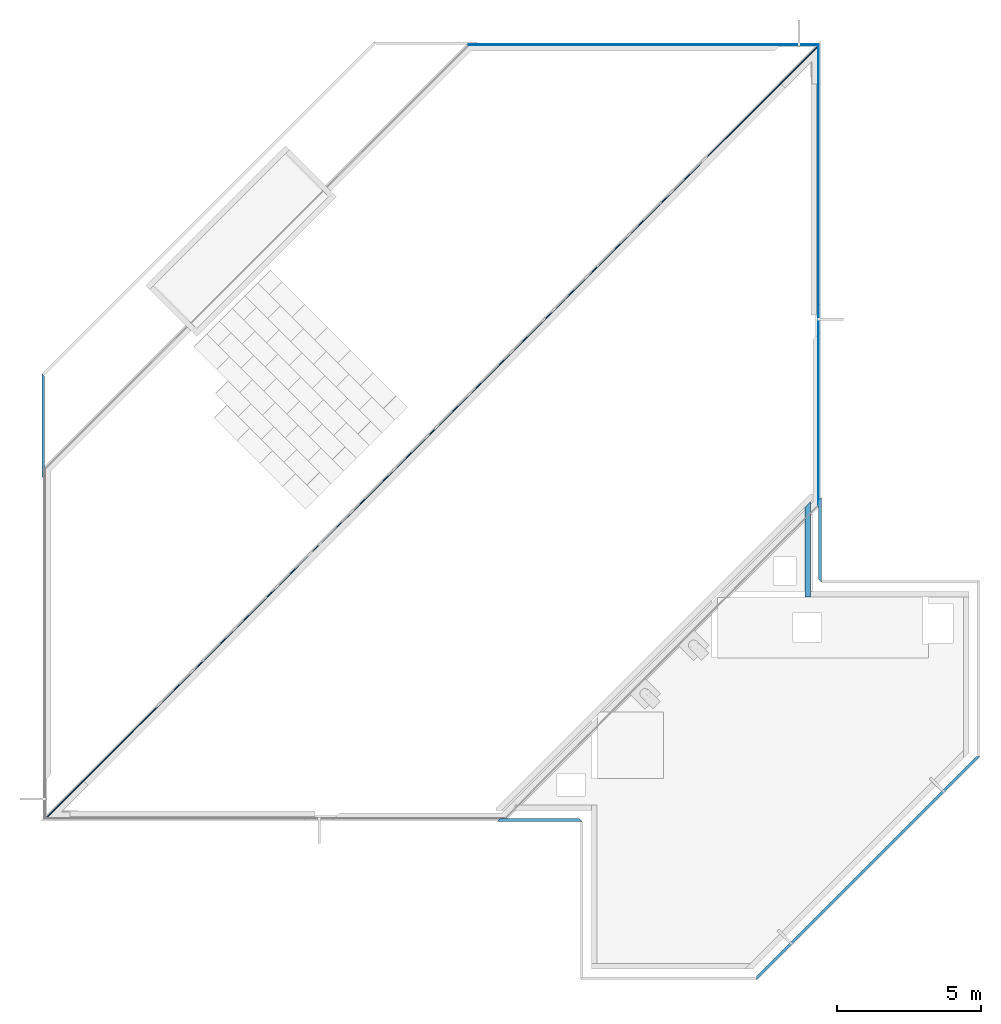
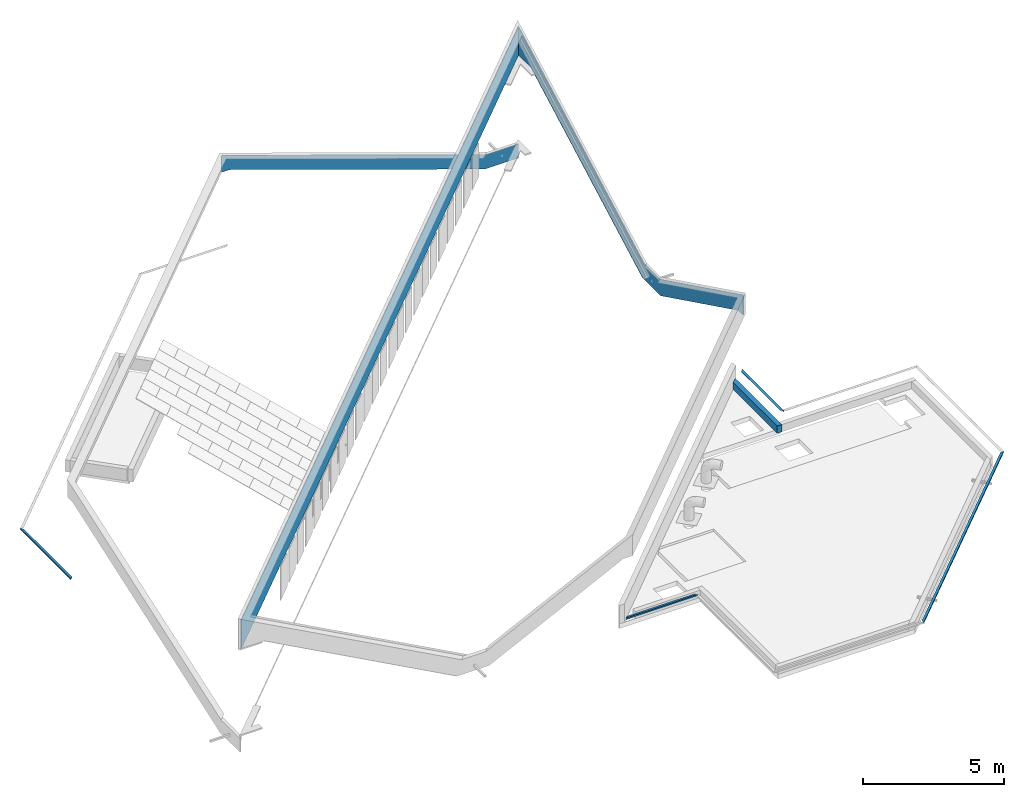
# One storey, part 5 of 8: 4 discrete accessories, 3 plates, 1 wall.
"""IFC4X3_ADD2 building model written with IfcOpenShell, lengths in millimetres."""

from ifc_helpers import new_model, si_unit, direction, frame, origin_with_axes, place, context, subcontext, project, spatial, polygons, source, transform, mapped, material, element, save


model = new_model("IFC4X3_ADD2")

# Units and contexts
model_context = context("Model", 3, precision=1e-05, world=origin_with_axes(), true_north=direction((0.0, 1.0)))
body_context = subcontext(model_context, "Body", "Model", "MODEL_VIEW")
ifc_project = project(units=[si_unit("LENGTHUNIT", "METRE", prefix="MILLI"), si_unit("AREAUNIT", "SQUARE_METRE"), si_unit("VOLUMEUNIT", "CUBIC_METRE"), si_unit("PLANEANGLEUNIT", "RADIAN"), si_unit("TIMEUNIT", "SECOND"), si_unit("MASSUNIT", "GRAM")], contexts=[model_context])

# Site, building, storey
site_placement = place(None, origin_with_axes())
site = spatial("IfcSite", under=ifc_project, at=site_placement, Name="Site", CompositionType="ELEMENT")
building_placement = place(site_placement, origin_with_axes())
building = spatial("IfcBuilding", under=site, at=building_placement, Name="IFC Building Story")
storey_placement = place(building_placement, frame((0.0, 0.0, 17050.0), z_axis=(0.0, 0.0, 1.0), x_axis=(1.0, 0.0, 0.0)))
storey = spatial("IfcBuildingStorey", under=building, at=storey_placement, Name="050", Elevation=17050.0)

# Plates
shared_shape_1 = source(origin_with_axes(), body_context, "Body", "Tessellation", [
    polygons([(10100.410772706, -14.000000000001, -2.16573425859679e-12), (10100.410772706, -12.0000000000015, 2.16573425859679e-12), (15587.0125281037, -12.0000000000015, 2695.0), (15587.0125281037, -14.0000000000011, 2695.0), (8782.81279845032, -14.0, -2.16573425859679e-12), (8782.81279845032, -12.0000000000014, -4.33146851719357e-12), (3825.34570056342, -14.0, 2695.0), (2280.1611505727, -14.0, 3535.0), (900.53208808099, -14.0, 4285.0), (900.53208808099, -12.0, 4285.0), (2280.1611505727, -12.0, 3535.0), (3825.34570056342, -12.0, 2695.0), (8950.89279170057, -14.0, 661.999999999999), (8950.89279170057, -12.0000000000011, 661.999999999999), (5208.60955123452, -12.0, 2695.0), (3662.36364764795, -12.0, 3535.0), (2281.78694801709, -12.0, 4285.0), (26.0000000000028, -11.9999999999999, 5510.45905016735), (28.0000000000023, -13.9999999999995, 5509.37254769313), (2281.7869480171, -14.0, 4285.0), (3662.36364764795, -14.0, 3535.0), (5208.60955123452, -14.0, 2695.0), (10011.2699455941, -14.0000000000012, 661.999999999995), (10011.2699455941, -12.0000000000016, 661.999999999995), (14150.1424375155, -14.0000000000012, 2695.0), (15860.2520751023, -14.0, 3535.0), (15928.943250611, -14.0, 3568.74087026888), (15926.943250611, -12.000000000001, 3567.75847711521), (15860.2520751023, -12.0000000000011, 3535.0), (14150.1424375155, -12.0000000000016, 2695.0), (26.0000000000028, -11.9999999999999, 4285.0), (15926.943250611, -12.000000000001, 3535.0), (15926.943250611, -12.000000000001, 2695.0), (15928.943250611, -14.0, 2695.0), (15928.943250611, -14.0, 3535.0), (27.9999999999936, -13.9999999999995, 4285.0)], [[[1, 2, 3, 4]], [[1, 5, 6, 2]], [[8, 9, 10]], [[8, 10, 11]], [[11, 12, 7]], [[11, 7, 8]], [[12, 6, 5]], [[12, 5, 7]], [[17, 18, 19]], [[17, 19, 20]], [[20, 21, 16]], [[20, 16, 17]], [[21, 22, 15]], [[21, 15, 16]], [[22, 13, 14]], [[22, 14, 15]], [[23, 24, 14, 13]], [[26, 27, 28]], [[26, 28, 29]], [[29, 30, 25]], [[29, 25, 26]], [[30, 24, 23]], [[30, 23, 25]], [[10, 31, 18]], [[18, 17, 10]], [[17, 11, 10]], [[17, 16, 12]], [[17, 12, 11]], [[29, 28, 32]], [[3, 30, 29]], [[29, 32, 33]], [[29, 33, 3]], [[3, 2, 24]], [[3, 24, 30]], [[2, 6, 14]], [[2, 14, 24]], [[6, 12, 15]], [[6, 15, 14]], [[12, 16, 15]], [[4, 34, 35]], [[9, 8, 20]], [[9, 20, 19]], [[19, 36, 9]], [[8, 7, 21]], [[8, 21, 20]], [[7, 22, 21]], [[7, 5, 13]], [[7, 13, 22]], [[5, 1, 23]], [[5, 23, 13]], [[1, 4, 25]], [[1, 25, 23]], [[4, 35, 26]], [[4, 26, 25]], [[35, 27, 26]], [[33, 34, 4, 3]], [[9, 36, 31, 10]], [[32, 28, 27]], [[32, 27, 35]], [[35, 34, 33]], [[35, 33, 32]], [[31, 36, 19, 18]]]),
    polygons([(10100.410772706, 11.9999999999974, -2.16573425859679e-12), (10100.410772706, 13.9999999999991, 2.16573425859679e-12), (15587.0125281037, 13.999999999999, 2695.0), (15587.0125281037, 11.9999999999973, 2695.0), (8782.81279845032, 13.9999999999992, -2.16573425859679e-12), (8782.81279845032, 11.9999999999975, -4.33146851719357e-12), (3825.34570056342, 11.9999999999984, 2695.0), (2280.1611505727, 11.9999999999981, 3535.0), (900.53208808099, 11.9999999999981, 4285.0), (900.53208808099, 13.9999999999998, 4285.0), (2280.1611505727, 13.9999999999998, 3535.0), (3825.34570056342, 14.0, 2695.0), (8950.89279170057, 11.9999999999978, 662.000000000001), (8950.89279170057, 13.9999999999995, 661.999999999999), (5208.60955123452, 14.0, 2695.0), (3662.36364764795, 13.9999999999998, 3535.0), (2281.78694801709, 13.9999999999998, 4285.0), (-36.7695526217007, 14.0, 5544.55868728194), (-34.7695526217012, 11.9999999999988, 5543.47218480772), (2281.78694801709, 11.9999999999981, 4285.0), (3662.36364764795, 11.9999999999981, 3535.0), (5208.60955123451, 11.9999999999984, 2695.0), (10011.2699455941, 11.9999999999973, 661.999999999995), (10011.2699455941, 13.999999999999, 661.999999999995), (14150.1424375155, 13.999999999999, 2695.0), (14150.1424375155, 11.9999999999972, 2695.0), (15860.2520751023, 11.9999999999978, 3535.0), (15902.943250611, 11.9999999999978, 3555.9697592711), (15900.943250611, 13.9999999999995, 3554.98736611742), (15860.2520751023, 13.9999999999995, 3535.0), (-36.7695526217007, 14.0, 4285.0), (15900.943250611, 13.9999999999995, 3535.0), (15937.7128032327, 13.9999999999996, 3535.0), (15937.7128032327, 13.9999999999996, 2695.0), (15939.7128032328, 11.9999999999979, 2695.0), (15939.7128032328, 11.9999999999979, 3535.0), (15902.943250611, 11.9999999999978, 3535.0), (-34.7695526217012, 11.9999999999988, 4285.0)], [[[1, 2, 3, 4]], [[5, 2, 1, 6]], [[8, 9, 10]], [[8, 10, 11]], [[11, 12, 7]], [[11, 7, 8]], [[12, 5, 6]], [[12, 6, 7]], [[17, 18, 19]], [[17, 19, 20]], [[20, 21, 16]], [[20, 16, 17]], [[21, 22, 15]], [[21, 15, 16]], [[22, 13, 14]], [[22, 14, 15]], [[23, 24, 14, 13]], [[25, 24, 23]], [[25, 23, 26]], [[27, 28, 29]], [[27, 29, 30]], [[30, 25, 26]], [[30, 26, 27]], [[10, 31, 18]], [[18, 17, 10]], [[17, 11, 10]], [[17, 16, 12]], [[17, 12, 11]], [[32, 33, 34]], [[34, 30, 32]], [[30, 29, 32]], [[3, 25, 30]], [[30, 34, 3]], [[3, 2, 24]], [[3, 24, 25]], [[2, 5, 14]], [[2, 14, 24]], [[5, 12, 15]], [[5, 15, 14]], [[12, 16, 15]], [[4, 35, 36]], [[9, 8, 20]], [[9, 20, 19]], [[19, 38, 9]], [[8, 7, 21]], [[8, 21, 20]], [[7, 22, 21]], [[7, 6, 13]], [[7, 13, 22]], [[6, 1, 23]], [[6, 23, 13]], [[1, 26, 23]], [[1, 37, 26]], [[37, 27, 26]], [[37, 28, 27]], [[1, 4, 36]], [[1, 36, 37]], [[36, 33, 32, 37]], [[34, 35, 4, 3]], [[32, 29, 28, 37]], [[31, 10, 9, 38]], [[33, 36, 35, 34]], [[31, 38, 19, 18]]]),
    polygons([(15587.0125281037, 11.9999999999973, 2695.0), (10100.410772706, 11.9999999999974, 2.16573425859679e-12), (8782.81279845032, 11.9999999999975, -4.33146851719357e-12), (3825.34570056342, 11.9999999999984, 2695.0), (2280.1611505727, 11.9999999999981, 3535.0), (900.53208808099, 11.9999999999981, 4285.0), (-0.828427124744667, 11.9999999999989, 4285.0), (-0.828427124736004, 11.9999999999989, 5525.03362639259), (2281.78694801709, 11.9999999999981, 4285.0), (3662.36364764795, 11.9999999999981, 3535.0), (5208.60955123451, 11.9999999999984, 2695.0), (8950.89279170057, 11.9999999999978, 662.000000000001), (10011.2699455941, 11.9999999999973, 661.999999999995), (14150.1424375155, 11.9999999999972, 2695.0), (15860.2520751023, 11.9999999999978, 3535.0), (15902.943250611, 11.9999999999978, 3555.9697592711), (15902.943250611, 11.9999999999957, 3535.0), (15905.7716777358, 11.9999999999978, 3535.0), (15905.7716777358, 11.9999999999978, 2695.0), (15587.0125281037, -12.0000000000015, 2695.0), (10100.410772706, -12.0000000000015, -2.16573425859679e-12), (8782.81279845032, -12.0000000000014, -4.33146851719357e-12), (3825.34570056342, -12.0, 2695.0), (2280.1611505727, -12.0, 3535.0), (900.53208808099, -12.0, 4285.0), (23.1715728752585, -12.0, 5511.99559670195), (2281.78694801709, -12.0, 4285.0), (3662.36364764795, -12.0, 3535.0), (5208.60955123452, -12.0, 2695.0), (8950.89279170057, -12.0000000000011, 661.999999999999), (10011.2699455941, -12.0000000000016, 661.999999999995), (14150.1424375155, -12.0000000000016, 2695.0), (15860.2520751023, -12.0000000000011, 3535.0), (15926.943250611, -12.000000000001, 3567.75847711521), (23.1715728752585, -12.0, 4285.0), (15929.7716777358, -12.000000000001, 2695.0), (15929.7716777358, -12.000000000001, 3535.0), (15926.943250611, -12.000000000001, 3535.0)], [[[6, 7, 8]], [[8, 9, 6]], [[9, 5, 6]], [[9, 10, 4]], [[9, 4, 5]], [[17, 18, 1]], [[1, 15, 16]], [[1, 16, 17]], [[1, 14, 15]], [[1, 2, 13]], [[1, 13, 14]], [[2, 3, 12]], [[2, 12, 13]], [[3, 4, 11]], [[3, 11, 12]], [[4, 10, 11]], [[18, 19, 1]], [[2, 1, 20, 21]], [[3, 2, 21, 22]], [[4, 3, 22]], [[4, 22, 23]], [[24, 25, 6]], [[24, 6, 5]], [[5, 4, 23]], [[5, 23, 24]], [[9, 8, 26]], [[9, 26, 27]], [[27, 28, 10]], [[27, 10, 9]], [[28, 29, 11]], [[28, 11, 10]], [[29, 30, 12]], [[29, 12, 11]], [[13, 12, 30, 31]], [[14, 13, 31]], [[14, 31, 32]], [[33, 34, 16]], [[33, 16, 15]], [[15, 14, 32]], [[15, 32, 33]], [[25, 24, 27]], [[25, 27, 26]], [[26, 35, 25]], [[24, 23, 28]], [[24, 28, 27]], [[23, 29, 28]], [[23, 22, 30]], [[23, 30, 29]], [[22, 21, 31]], [[22, 31, 30]], [[21, 20, 32]], [[21, 32, 31]], [[38, 34, 33]], [[33, 20, 36]], [[33, 36, 38]], [[36, 37, 38]], [[33, 32, 20]], [[37, 18, 17, 38]], [[1, 19, 36, 20]], [[18, 37, 36, 19]], [[17, 16, 34, 38]], [[7, 6, 25, 35]], [[7, 35, 26, 8]]]),
])
plate_1_placement = place(storey_placement, frame((-12225.0126193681, 39042.9781789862, 258.0), z_axis=(0.0, 0.0, 1.0), x_axis=(0.0, -1.0, 0.0)))
element("IfcPlate", 1, at=plate_1_placement, inside=storey, Name="Basic Wall:BB_07.04.63#01_Aluminium sandwichpanelen, 28 mm", ObjectType="Basic Wall:BB_07.04.63#01_Aluminium sandwichpanelen, 28 mm", PredefinedType="USERDEFINED", context=body_context, shape_type="MappedRepresentation", body=[
    mapped(shared_shape_1, transform((0.0, 0.0, 0.0))),
])
shared_shape_2 = source(origin_with_axes(), body_context, "Body", "Tessellation", [
    polygons([(67.5979797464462, -13.999999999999, 0.0), (64.7695526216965, -13.999999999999, 0.0), (62.7695526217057, -12.0000000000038, 0.0), (37939.377893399, -11.9999999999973, 0.0), (37937.377893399, -13.9999999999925, 0.0), (37934.5494662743, -13.9999999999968, 0.0), (62.7695526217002, -12.0000000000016, 1224.29045568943), (26.0000000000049, -12.0000000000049, 1224.29045568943), (26.0000000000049, -12.0000000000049, 1250.0), (37976.1474460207, -11.9999999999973, 1250.00000000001), (37976.1474460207, -11.9999999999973, 1224.29045568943), (37939.377893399, -11.9999999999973, 1224.29045568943), (37937.377893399, -13.9999999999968, 1224.29045568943), (37974.1474460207, -13.9999999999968, 1224.29045568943), (37974.1474460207, -13.9999999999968, 1239.58358233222), (37974.1474460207, -13.9999999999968, 1250.0), (27.9999999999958, -13.9999999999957, 1250.0), (27.9999999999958, -13.9999999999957, 1239.59043936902), (27.9999999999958, -13.9999999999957, 1224.29045568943), (64.7695526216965, -13.999999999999, 1224.29045568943)], [[[1, 2, 3]], [[6, 1, 3]], [[6, 3, 4]], [[4, 5, 6]], [[7, 8, 9]], [[7, 9, 12]], [[12, 4, 3]], [[12, 3, 7]], [[9, 10, 12]], [[10, 11, 12]], [[6, 5, 13]], [[15, 16, 13]], [[13, 14, 15]], [[20, 1, 6]], [[20, 6, 13]], [[13, 18, 20]], [[18, 19, 20]], [[13, 16, 17]], [[13, 17, 18]], [[20, 2, 1]], [[13, 5, 4, 12]], [[7, 3, 2, 20]], [[19, 8, 7, 20]], [[18, 17, 9]], [[9, 8, 19]], [[9, 19, 18]], [[17, 16, 10, 9]], [[15, 14, 11]], [[15, 11, 10]], [[10, 16, 15]], [[11, 14, 13, 12]]]),
    polygons([(4.33146851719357e-12, 14.0, 0.0), (38002.1474460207, 14.0000000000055, 0.0), (38000.1474460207, 12.0000000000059, 0.0), (1.99999999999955, 12.0000000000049, 0.0), (1.99999999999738, 12.0000000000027, 1224.28588433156), (1.99999999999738, 12.0000000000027, 1250.0), (-2.16573425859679e-12, 14.0000000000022, 1250.0), (-2.16573425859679e-12, 14.0000000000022, 1224.28588433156), (38002.1474460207, 14.0000000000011, 1224.28588433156), (38002.1474460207, 14.0000000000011, 1250.0), (38000.1474460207, 12.0000000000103, 1250.0), (38000.1474460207, 12.0000000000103, 1224.28588433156)], [[[1, 2, 3, 4]], [[5, 6, 7]], [[5, 7, 8]], [[8, 1, 4]], [[8, 4, 5]], [[9, 10, 11]], [[9, 11, 12]], [[12, 3, 2]], [[12, 2, 9]], [[8, 7, 10]], [[8, 10, 9]], [[9, 2, 1]], [[9, 1, 8]], [[12, 11, 6]], [[12, 6, 5]], [[5, 4, 3]], [[5, 3, 12]], [[10, 7, 6, 11]]]),
    polygons([(37997.319018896, 12.0000000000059, 0.0), (4.82842712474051, 12.0000000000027, 0.0), (4.82842712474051, 12.0000000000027, 1224.29045568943), (1.99999999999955, 12.0000000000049, 1224.29045568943), (1.99999999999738, 12.0000000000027, 1250.0), (38000.1474460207, 12.0000000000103, 1250.0), (38000.1474460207, 12.0000000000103, 1224.29045568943), (37997.319018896, 12.0000000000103, 1224.29045568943), (37973.3190188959, -11.9999999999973, 0.0), (28.8284271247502, -12.0000000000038, 0.0), (37973.3190188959, -11.9999999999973, 1224.29045568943), (37976.1474460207, -11.9999999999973, 1224.29045568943), (37976.1474460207, -11.9999999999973, 1250.00000000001), (26.0000000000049, -12.0000000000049, 1250.0), (26.0000000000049, -12.0000000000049, 1224.29045568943), (28.8284271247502, -12.0000000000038, 1224.29045568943)], [[[3, 4, 5]], [[3, 5, 8]], [[8, 1, 2]], [[8, 2, 3]], [[5, 6, 8]], [[6, 7, 8]], [[2, 1, 9, 10]], [[11, 12, 13]], [[11, 13, 16]], [[16, 10, 9]], [[16, 9, 11]], [[13, 14, 16]], [[14, 15, 16]], [[9, 1, 8, 11]], [[2, 10, 16, 3]], [[15, 4, 3, 16]], [[4, 15, 14, 5]], [[6, 5, 14, 13]], [[12, 7, 6, 13]], [[7, 12, 11, 8]]]),
])
plate_2_placement = place(storey_placement, frame((-39072.6892831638, 12201.1005050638, 4543.0), z_axis=(0.0, 0.0, 1.0), x_axis=(0.7071067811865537, 0.7071067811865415, 0.0)))
element("IfcPlate", 2, at=plate_2_placement, inside=storey, Name="Basic Wall:BB_07.04.63#01_Aluminium sandwichpanelen, 28 mm", ObjectType="Basic Wall:BB_07.04.63#01_Aluminium sandwichpanelen, 28 mm", PredefinedType="USERDEFINED", context=body_context, shape_type="MappedRepresentation", body=[
    mapped(shared_shape_2, transform((0.0, 0.0, 0.0))),
])
shared_shape_3 = source(origin_with_axes(), body_context, "Body", "Tessellation", [
    polygons([(0.0, 14.0000000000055, -2.16573425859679e-12), (1377.47711262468, 14.0000000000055, -2.16573425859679e-12), (1377.47711262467, 11.9999999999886, 2.16573425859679e-12), (0.0, 11.9999999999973, -2.16573425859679e-12), (0.0, 11.9999999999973, 607.911323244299), (0.0, 14.0000000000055, 607.911323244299), (1333.47530425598, 11.9999999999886, 607.911323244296), (1333.47530425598, 14.0000000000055, 607.911323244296), (10029.0500586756, 14.0000000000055, 3630.0), (10029.0500586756, 11.9999999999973, 3630.0), (12043.1876235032, 11.9999999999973, 4330.0), (12138.2428678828, 11.9999999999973, 4363.03581256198), (12140.2428678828, 14.0000000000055, 4363.73089914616), (12043.1876235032, 14.0000000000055, 4330.0), (11822.2190559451, 13.9999999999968, 3630.0), (11822.2190559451, 11.9999999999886, 3630.0), (12138.2428678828, 11.9999999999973, 3630.0), (12138.2428678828, 11.9999999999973, 4330.0), (12140.2428678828, 14.0000000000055, 4330.0), (12140.2428678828, 14.0000000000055, 3630.0)], [[[1, 2, 3, 4]], [[1, 4, 5, 6]], [[6, 5, 7, 8]], [[9, 8, 7]], [[9, 7, 10]], [[11, 12, 13]], [[11, 13, 14]], [[14, 9, 10]], [[14, 10, 11]], [[3, 2, 15, 16]], [[16, 17, 18]], [[7, 5, 4]], [[7, 4, 3]], [[3, 16, 10]], [[3, 10, 7]], [[16, 18, 11]], [[16, 11, 10]], [[18, 12, 11]], [[14, 13, 19]], [[15, 9, 14]], [[14, 19, 20]], [[14, 20, 15]], [[15, 2, 8]], [[15, 8, 9]], [[2, 1, 8]], [[1, 6, 8]], [[15, 20, 17, 16]], [[19, 13, 12]], [[19, 12, 18]], [[18, 17, 20]], [[18, 20, 19]]]),
    polygons([(1377.47711262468, -13.9999999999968, -2.16573425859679e-12), (0.0, -13.9999999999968, -2.16573425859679e-12), (0.0, -11.9999999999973, -2.16573425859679e-12), (1377.47711262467, -12.0000000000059, 2.16573425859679e-12), (0.0, -13.9999999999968, 607.911323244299), (0.0, -11.9999999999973, 607.911323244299), (1333.47530425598, -13.9999999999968, 607.911323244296), (1333.47530425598, -12.0000000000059, 607.911323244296), (10029.0500586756, -13.9999999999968, 3630.0), (12043.1876235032, -13.9999999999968, 4330.0), (12112.2428678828, -13.9999999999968, 4353.99968696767), (12114.2428678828, -11.9999999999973, 4354.69477355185), (12043.1876235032, -11.9999999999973, 4330.0), (10029.0500586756, -11.9999999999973, 3630.0), (11822.2190559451, -12.0000000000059, 3630.0), (11822.2190559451, -14.0000000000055, 3630.0), (12149.0124205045, -13.9999999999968, 3630.0), (12149.0124205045, -13.9999999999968, 4330.0), (12112.2428678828, -13.9999999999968, 4330.0), (12114.2428678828, -12.0000000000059, 4330.0), (12151.0124205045, -11.9999999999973, 4330.0), (12151.0124205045, -11.9999999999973, 3630.0)], [[[1, 2, 3, 4]], [[3, 2, 5, 6]], [[6, 5, 7, 8]], [[10, 11, 12]], [[10, 12, 13]], [[13, 14, 9]], [[13, 9, 10]], [[14, 8, 7]], [[14, 7, 9]], [[1, 4, 15, 16]], [[16, 17, 18]], [[7, 5, 2]], [[7, 2, 1]], [[1, 16, 9]], [[1, 9, 7]], [[16, 19, 10]], [[16, 10, 9]], [[19, 11, 10]], [[16, 18, 19]], [[20, 21, 22]], [[22, 13, 20]], [[13, 12, 20]], [[15, 14, 13]], [[13, 22, 15]], [[15, 4, 8]], [[15, 8, 14]], [[4, 3, 8]], [[3, 6, 8]], [[18, 21, 20, 19]], [[15, 22, 17, 16]], [[11, 19, 20, 12]], [[21, 18, 17, 22]]]),
    polygons([(1377.47711262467, 11.9999999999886, 2.16573425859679e-12), (0.0, 11.9999999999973, -2.16573425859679e-12), (0.0, 11.9999999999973, 607.911323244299), (1333.47530425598, 11.9999999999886, 607.911323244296), (10029.0500586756, 11.9999999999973, 3630.0), (12043.1876235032, 11.9999999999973, 4330.0), (12138.2428678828, 11.9999999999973, 4363.03581256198), (12138.2428678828, 11.9999999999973, 4330.0), (12141.0712950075, 11.9999999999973, 4330.0), (12141.0712950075, 11.9999999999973, 3630.0), (11822.2190559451, 11.9999999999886, 3630.0), (1377.47711262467, -12.0000000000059, 2.16573425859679e-12), (0.0, -11.9999999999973, -2.16573425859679e-12), (-1.18962125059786e-12, -11.9999999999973, 607.911323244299), (1333.47530425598, -12.0000000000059, 607.911323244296), (10029.0500586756, -11.9999999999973, 3630.0), (12043.1876235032, -11.9999999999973, 4330.0), (12114.2428678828, -11.9999999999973, 4354.69477355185), (11822.2190559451, -12.0000000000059, 3630.0), (12117.0712950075, -11.9999999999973, 3630.0), (12117.0712950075, -11.9999999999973, 4330.0), (12114.2428678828, -11.9999999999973, 4330.0)], [[[8, 9, 10]], [[10, 6, 8]], [[6, 7, 8]], [[11, 5, 6]], [[6, 10, 11]], [[11, 1, 4]], [[11, 4, 5]], [[1, 2, 4]], [[2, 3, 4]], [[2, 1, 12, 13]], [[3, 2, 13, 14]], [[4, 3, 14, 15]], [[5, 4, 15]], [[5, 15, 16]], [[17, 18, 7]], [[17, 7, 6]], [[6, 5, 16]], [[6, 16, 17]], [[1, 11, 19, 12]], [[19, 20, 21]], [[15, 14, 13]], [[15, 13, 12]], [[12, 19, 16]], [[12, 16, 15]], [[19, 22, 17]], [[19, 17, 16]], [[22, 18, 17]], [[19, 21, 22]], [[21, 9, 8, 22]], [[11, 10, 20, 19]], [[9, 21, 20, 10]], [[8, 7, 18, 22]]]),
])
plate_3_placement = place(storey_placement, frame((-12211.0126193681, 39075.0, 73.0), z_axis=(0.0, 0.0, 1.0), x_axis=(-1.0, 0.0, 0.0)))
element("IfcPlate", 3, at=plate_3_placement, inside=storey, Name="Basic Wall:BB_07.04.63#01_Aluminium sandwichpanelen, 28 mm", ObjectType="Basic Wall:BB_07.04.63#01_Aluminium sandwichpanelen, 28 mm", PredefinedType="USERDEFINED", context=body_context, shape_type="MappedRepresentation", body=[
    mapped(shared_shape_3, transform((0.0, 0.0, 0.0))),
])

# Wall
wall_placement = place(storey_placement, frame((0.0, 0.0, -17050.0), z_axis=(0.0, 0.0, 1.0), x_axis=(1.0, 0.0, 0.0)))
element("IfcWall", 4, at=wall_placement, inside=storey, Name="Basic Wall:BB_03.09.24#03_Wand uit metselwerk, 190 mm", ObjectType="Basic Wall:BB_03.09.24#03_Wand uit metselwerk, 190 mm", PredefinedType="SOLIDWALL", context=body_context, shape_type="Tessellation", body=[
    polygons([(-12690.0040658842, 19909.99999999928, 17000.0), (-12690.0040658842, 19909.99999999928, 17310.0), (-12690.0040658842, 23031.8015591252, 17310.0), (-12690.0040658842, 23031.8015591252, 17000.0), (-12500.0040658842, 19909.99999999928, 17310.0), (-12500.0040658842, 19909.99999999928, 17000.0), (-12500.0040658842, 20099.99999999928, 17000.0), (-12500.0040658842, 23221.8015591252, 17000.0), (-12500.0040658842, 23221.8015591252, 17310.0), (-12500.0040658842, 20099.99999999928, 17310.0)], [[[1, 2, 3, 4]], [[7, 8, 9]], [[7, 9, 10]], [[10, 5, 6]], [[10, 6, 7]], [[7, 6, 1]], [[1, 4, 8]], [[1, 8, 7]], [[10, 9, 3]], [[10, 3, 2]], [[2, 5, 10]], [[2, 1, 6, 5]], [[4, 3, 9, 8]]]),
])

# Discrete accessories
ifc_material = material(Name="BB_Metaal_Aluminium_Buitenschrijnwerk")
shared_shape_4 = source(origin_with_axes(), body_context, "Body", "Tessellation", [
    polygons([(1.99999999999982, 1.99999999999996, 44.9888268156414), (2.0, 2.0, 5.00291224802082), (8.10150784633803, 8.10150784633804, 11.4146481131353), (9.51615595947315, 9.5161559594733, 9.99999999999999), (0.0, 0.0, 0.0), (0.0, 0.0, 59.9888268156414), (9.99999999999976, 9.99999999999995, 59.9888268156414), (9.99999999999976, 9.99999999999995, 57.9888268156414), (2.0, 2.0, 57.9888268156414), (2.0, 2.0, 46.9888268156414), (99.9999999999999, 99.9999999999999, 46.9888268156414), (99.9999999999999, 99.9999999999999, 44.9888268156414), (3618.0, 2.0, 5.0029122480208), (3618.0, 2.0, 44.9888268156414), (3520.0, 100.0, 44.9888268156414), (3520.0, 100.0, 46.9888268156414), (3618.0, 2.0, 46.9888268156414), (3618.0, 2.0, 57.9888268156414), (3610.0, 10.0, 57.9888268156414), (3610.0, 10.0, 59.9888268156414), (3620.0, 0.0, 59.9888268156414), (3620.0, 0.0, 0.0), (3610.48384404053, 9.51615595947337, 9.99999999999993), (3611.89849215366, 8.10150784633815, 11.4146481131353)], [[[2, 3, 4]], [[2, 4, 5]], [[5, 6, 1]], [[5, 1, 2]], [[10, 11, 12]], [[10, 12, 1]], [[10, 1, 6]], [[6, 9, 10]], [[6, 7, 8]], [[6, 8, 9]], [[18, 19, 20]], [[18, 20, 21]], [[21, 17, 18]], [[21, 14, 17]], [[14, 15, 16]], [[14, 16, 17]], [[21, 22, 13]], [[21, 13, 14]], [[22, 23, 24]], [[22, 24, 13]], [[2, 1, 14, 13]], [[5, 4, 23, 22]], [[3, 2, 13, 24]], [[6, 5, 22, 21]], [[4, 3, 24, 23]], [[7, 6, 21, 20]], [[8, 7, 20, 19]], [[9, 8, 19, 18]], [[10, 9, 18, 17]], [[11, 10, 17, 16]], [[12, 11, 16, 15]], [[1, 12, 15, 14]]]),
])
discrete_accessory_1_placement = place(storey_placement, frame((-39180.0, 27670.8116907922, 360.0055865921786), z_axis=(0.0, 0.0, 1.0), x_axis=(0.0, -1.0, 0.0)))
element("IfcDiscreteAccessory", 5, at=discrete_accessory_1_placement, inside=storey, material=ifc_material, Name="BB_05.10_Dakrandprofiel, 60 mm_GLI:XX_Geen", ObjectType="BB_05.10_Dakrandprofiel, 60 mm_GLI:XX_Geen", PredefinedType="USERDEFINED", context=body_context, shape_type="MappedRepresentation", body=[
    mapped(shared_shape_4, transform((0.0, 0.0, 0.0))),
])
shared_shape_5 = source(origin_with_axes(), body_context, "Body", "Tessellation", [
    polygons([(2.0, 2.0, 44.9888268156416), (2.0, 2.0, 5.0029122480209), (8.10150784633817, 8.10150784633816, 11.4146481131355), (9.51615595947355, 9.51615595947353, 10.0), (0.0, 0.0, 0.0), (0.0, 0.0, 59.9888268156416), (10.0, 10.0, 59.9888268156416), (10.0, 10.0, 57.9888268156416), (2.0, 2.0, 57.9888268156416), (2.0, 2.0, 46.9888268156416), (100.0, 100.0, 46.9888268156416), (100.0, 100.0, 44.9888268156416), (2949.35841225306, 2.0, 5.00291224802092), (2949.35841225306, 2.0, 44.9888268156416), (2851.35841225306, 100.0, 44.9888268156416), (2851.35841225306, 100.0, 46.9888268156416), (2949.35841225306, 2.0, 46.9888268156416), (2949.35841225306, 2.0, 57.9888268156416), (2941.35841225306, 10.0, 57.9888268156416), (2941.35841225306, 10.0, 59.9888268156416), (2951.35841225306, 0.0, 59.9888268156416), (2951.35841225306, 0.0, 0.0), (2941.84225629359, 9.51615595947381, 10.0), (2943.25690440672, 8.1015078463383, 11.4146481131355)], [[[2, 3, 4]], [[2, 4, 5]], [[5, 6, 1]], [[5, 1, 2]], [[10, 11, 12]], [[10, 12, 1]], [[10, 1, 6]], [[6, 9, 10]], [[6, 7, 8]], [[6, 8, 9]], [[18, 19, 20]], [[18, 20, 21]], [[21, 17, 18]], [[21, 14, 17]], [[14, 15, 16]], [[14, 16, 17]], [[21, 22, 13]], [[21, 13, 14]], [[22, 23, 24]], [[22, 24, 13]], [[2, 1, 14, 13]], [[5, 4, 23, 22]], [[3, 2, 13, 24]], [[6, 5, 22, 21]], [[4, 3, 24, 23]], [[7, 6, 21, 20]], [[8, 7, 20, 19]], [[9, 8, 19, 18]], [[10, 9, 18, 17]], [[11, 10, 17, 16]], [[12, 11, 16, 15]], [[1, 12, 15, 14]]]),
])
discrete_accessory_2_placement = place(storey_placement, frame((-23381.3584122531, 12120.0, 360.0055865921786), z_axis=(0.0, 0.0, 1.0), x_axis=(1.0, 0.0, 0.0)))
element("IfcDiscreteAccessory", 6, at=discrete_accessory_2_placement, inside=storey, material=ifc_material, Name="BB_05.10_Dakrandprofiel, 60 mm_GLI:XX_Geen", ObjectType="BB_05.10_Dakrandprofiel, 60 mm_GLI:XX_Geen", PredefinedType="USERDEFINED", context=body_context, shape_type="MappedRepresentation", body=[
    mapped(shared_shape_5, transform((0.0, 0.0, 0.0))),
])
shared_shape_6 = source(origin_with_axes(), body_context, "Body", "Tessellation", [
    polygons([(1.99999999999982, 2.0, 44.9888268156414), (1.99999999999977, 2.0, 5.00291224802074), (8.10150784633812, 8.10150784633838, 11.4146481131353), (9.51615595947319, 9.51615595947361, 9.99999999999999), (0.0, 0.0, 0.0), (0.0, 0.0, 59.9888268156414), (9.99999999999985, 10.0, 59.9888268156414), (9.99999999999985, 10.0, 57.9888268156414), (1.99999999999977, 2.0, 57.9888268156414), (1.99999999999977, 2.0, 46.9888268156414), (99.9999999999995, 100.0, 46.9888268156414), (99.9999999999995, 100.0, 44.9888268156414), (10960.4090758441, 2.0, 5.0029122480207), (10960.4090758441, 2.0, 44.9888268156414), (10862.4090758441, 100.0, 44.9888268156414), (10862.4090758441, 100.0, 46.9888268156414), (10960.4090758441, 2.0, 46.9888268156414), (10960.4090758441, 2.0, 57.9888268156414), (10952.4090758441, 10.0, 57.9888268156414), (10952.4090758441, 10.0, 59.9888268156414), (10962.4090758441, 0.0, 59.9888268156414), (10962.4090758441, 0.0, 0.0), (10952.8929198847, 9.51615595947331, 10.0), (10954.3075679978, 8.10150784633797, 11.4146481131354)], [[[2, 3, 4]], [[2, 4, 5]], [[5, 6, 1]], [[5, 1, 2]], [[10, 11, 12]], [[10, 12, 1]], [[10, 1, 6]], [[6, 9, 10]], [[6, 7, 8]], [[6, 8, 9]], [[18, 19, 20]], [[18, 20, 21]], [[21, 17, 18]], [[21, 14, 17]], [[14, 15, 16]], [[14, 16, 17]], [[21, 22, 13]], [[21, 13, 14]], [[22, 23, 24]], [[22, 24, 13]], [[2, 1, 14, 13]], [[5, 4, 23, 22]], [[3, 2, 13, 24]], [[6, 5, 22, 21]], [[4, 3, 24, 23]], [[7, 6, 21, 20]], [[8, 7, 20, 19]], [[9, 8, 19, 18]], [[10, 9, 18, 17]], [[11, 10, 17, 16]], [[12, 11, 16, 15]], [[1, 12, 15, 14]]]),
])
discrete_accessory_3_placement = place(storey_placement, frame((-14369.1673887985, 6617.57359312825, 360.0055865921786), z_axis=(0.0, 0.0, 1.0), x_axis=(0.7071067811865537, 0.7071067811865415, 0.0)))
element("IfcDiscreteAccessory", 7, at=discrete_accessory_3_placement, inside=storey, material=ifc_material, Name="BB_05.10_Dakrandprofiel, 60 mm_GLI:XX_Geen", ObjectType="BB_05.10_Dakrandprofiel, 60 mm_GLI:XX_Geen", PredefinedType="USERDEFINED", context=body_context, shape_type="MappedRepresentation", body=[
    mapped(shared_shape_6, transform((0.0, 0.0, 0.0))),
])
shared_shape_7 = source(origin_with_axes(), body_context, "Body", "Tessellation", [
    polygons([(2.0, 2.0, 44.9888268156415), (2.0, 2.0, 5.00291224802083), (8.10150784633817, 8.10150784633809, 11.4146481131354), (9.51615595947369, 9.51615595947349, 10.0), (0.0, 0.0, 0.0), (0.0, 0.0, 59.9888268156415), (10.0, 10.0, 59.9888268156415), (10.0, 10.0, 57.9888268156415), (2.0, 2.0, 57.9888268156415), (2.0, 2.0, 46.9888268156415), (100.0, 100.0, 46.9888268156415), (100.0, 100.0, 44.9888268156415), (2946.34753792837, 2.0, 5.00291224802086), (2946.34753792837, 2.0, 44.9888268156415), (2848.34753792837, 100.0, 44.9888268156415), (2848.34753792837, 100.0, 46.9888268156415), (2946.34753792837, 2.0, 46.9888268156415), (2946.34753792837, 2.0, 57.9888268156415), (2938.34753792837, 10.0, 57.9888268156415), (2938.34753792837, 10.0, 59.9888268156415), (2948.34753792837, 0.0, 59.9888268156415), (2948.34753792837, 0.0, 0.0), (2938.8313819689, 9.51615595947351, 10.0), (2940.24603008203, 8.10150784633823, 11.4146481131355)], [[[2, 3, 4]], [[2, 4, 5]], [[5, 6, 1]], [[5, 1, 2]], [[10, 11, 12]], [[10, 12, 1]], [[10, 1, 6]], [[6, 9, 10]], [[6, 7, 8]], [[6, 8, 9]], [[18, 19, 20]], [[18, 20, 21]], [[21, 17, 18]], [[21, 14, 17]], [[14, 15, 16]], [[14, 16, 17]], [[21, 22, 13]], [[21, 13, 14]], [[22, 23, 24]], [[22, 24, 13]], [[2, 1, 14, 13]], [[5, 4, 23, 22]], [[3, 2, 13, 24]], [[6, 5, 22, 21]], [[4, 3, 24, 23]], [[7, 6, 21, 20]], [[8, 7, 20, 19]], [[9, 8, 19, 18]], [[10, 9, 18, 17]], [[11, 10, 17, 16]], [[12, 11, 16, 15]], [[1, 12, 15, 14]]]),
])
discrete_accessory_4_placement = place(storey_placement, frame((-12120.0, 20430.0, 360.0055865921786), z_axis=(0.0, 0.0, 1.0), x_axis=(0.0, 1.0, 0.0)))
element("IfcDiscreteAccessory", 8, at=discrete_accessory_4_placement, inside=storey, material=ifc_material, Name="BB_05.10_Dakrandprofiel, 60 mm_GLI:XX_Geen", ObjectType="BB_05.10_Dakrandprofiel, 60 mm_GLI:XX_Geen", PredefinedType="USERDEFINED", context=body_context, shape_type="MappedRepresentation", body=[
    mapped(shared_shape_7, transform((0.0, 0.0, 0.0))),
])

save(model, "model.ifc")
